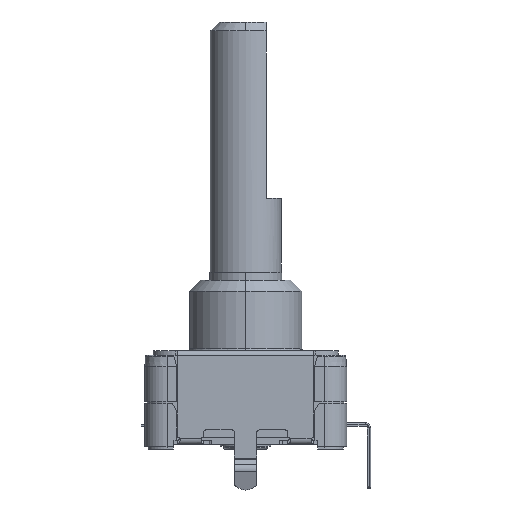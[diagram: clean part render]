
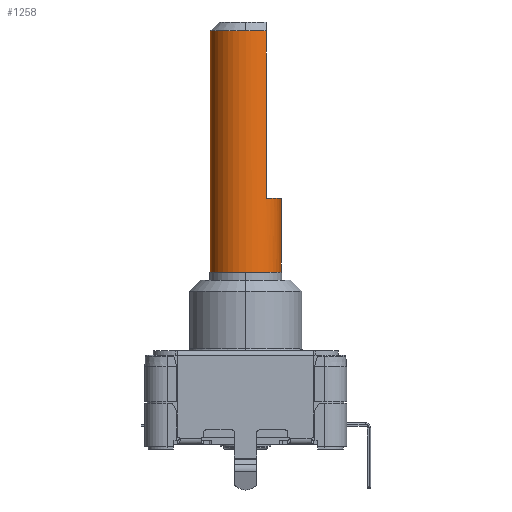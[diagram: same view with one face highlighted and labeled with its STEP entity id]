
A CAD part, left-side view. The second image highlights one B-rep face of the part: STEP entity #1258.
In plain terms, the highlighted cylindrical face has radius 3.163 mm (diameter 6.325 mm), a partial arc.
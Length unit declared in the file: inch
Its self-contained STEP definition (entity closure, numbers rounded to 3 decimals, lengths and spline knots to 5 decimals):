
#1258=ADVANCED_FACE('',(#3047),#3048,.T.);
#3047=FACE_OUTER_BOUND('',#5677,.T.);
#3048=CYLINDRICAL_SURFACE('',#5678,0.12451);
#5677=EDGE_LOOP('',(#9756,#9757,#9758,#9759,#9760,#9761,#9762));
#5678=AXIS2_PLACEMENT_3D('',#9763,#9764,#9765);
#9756=ORIENTED_EDGE('',*,*,#16061,.T.);
#9757=ORIENTED_EDGE('',*,*,#16062,.T.);
#9758=ORIENTED_EDGE('',*,*,#15140,.F.);
#9759=ORIENTED_EDGE('',*,*,#16063,.F.);
#9760=ORIENTED_EDGE('',*,*,#15138,.F.);
#9761=ORIENTED_EDGE('',*,*,#16064,.T.);
#9762=ORIENTED_EDGE('',*,*,#15691,.T.);
#9763=CARTESIAN_POINT('',(0.,0.,1.23667));
#9764=DIRECTION('',(0.,0.,1.0));
#9765=DIRECTION('',(0.0,1.0,0.));
#15138=EDGE_CURVE('',#18137,#18139,#18140,.F.);
#15140=EDGE_CURVE('',#18141,#18143,#18144,.T.);
#15691=EDGE_CURVE('',#19073,#19070,#19074,.T.);
#16061=EDGE_CURVE('',#19070,#19670,#19671,.F.);
#16062=EDGE_CURVE('',#19670,#18143,#19672,.F.);
#16063=EDGE_CURVE('',#18139,#18141,#19673,.F.);
#16064=EDGE_CURVE('',#18137,#19073,#19674,.F.);
#18137=VERTEX_POINT('',#22417);
#18139=VERTEX_POINT('',#22419);
#18140=LINE('',#22420,#22421);
#18141=VERTEX_POINT('',#22422);
#18143=VERTEX_POINT('',#22424);
#18144=LINE('',#22425,#22426);
#19070=VERTEX_POINT('',#23782);
#19073=VERTEX_POINT('',#23788);
#19074=LINE('',#23789,#23790);
#19670=VERTEX_POINT('',#24687);
#19671=CIRCLE('',#24688,0.12451);
#19672=CIRCLE('',#24689,0.12451);
#19673=CIRCLE('',#24690,0.12451);
#19674=CIRCLE('',#24691,0.12451);
#22417=CARTESIAN_POINT('',(0.,-0.12451,0.88031));
#22419=CARTESIAN_POINT('',(0.,-0.12451,0.62087));
#22420=CARTESIAN_POINT('',(0.,-0.12451,1.23667));
#22421=VECTOR('',#27924,1000.0);
#22422=CARTESIAN_POINT('',(0.,0.12451,0.62087));
#22424=CARTESIAN_POINT('',(0.,0.12451,1.46693));
#22425=CARTESIAN_POINT('',(0.,0.12451,1.23667));
#22426=VECTOR('',#27928,1000.0);
#23782=CARTESIAN_POINT('',(-0.10122,-0.0725,1.46693));
#23788=CARTESIAN_POINT('',(-0.10122,-0.0725,0.88031));
#23789=CARTESIAN_POINT('',(-0.10122,-0.0725,1.23667));
#23790=VECTOR('',#28549,1000.0);
#24687=CARTESIAN_POINT('',(-0.12451,0.,1.46693));
#24688=AXIS2_PLACEMENT_3D('',#28964,#28965,#28966);
#24689=AXIS2_PLACEMENT_3D('',#28967,#28968,#28969);
#24690=AXIS2_PLACEMENT_3D('',#28970,#28971,#28972);
#24691=AXIS2_PLACEMENT_3D('',#28973,#28974,#28975);
#27924=DIRECTION('',(0.,0.,1.0));
#27928=DIRECTION('',(0.,0.,1.0));
#28549=DIRECTION('',(0.,0.,1.0));
#28964=CARTESIAN_POINT('',(0.,0.,1.46693));
#28965=DIRECTION('',(0.,0.,1.0));
#28966=DIRECTION('',(0.0,1.0,0.));
#28967=CARTESIAN_POINT('',(0.,0.,1.46693));
#28968=DIRECTION('',(0.,0.,1.0));
#28969=DIRECTION('',(0.0,1.0,0.));
#28970=CARTESIAN_POINT('',(0.,0.,0.62087));
#28971=DIRECTION('',(0.,0.,1.0));
#28972=DIRECTION('',(0.0,1.0,0.));
#28973=CARTESIAN_POINT('',(0.,0.,0.88031));
#28974=DIRECTION('',(0.,0.,1.0));
#28975=DIRECTION('',(0.0,1.0,0.));
